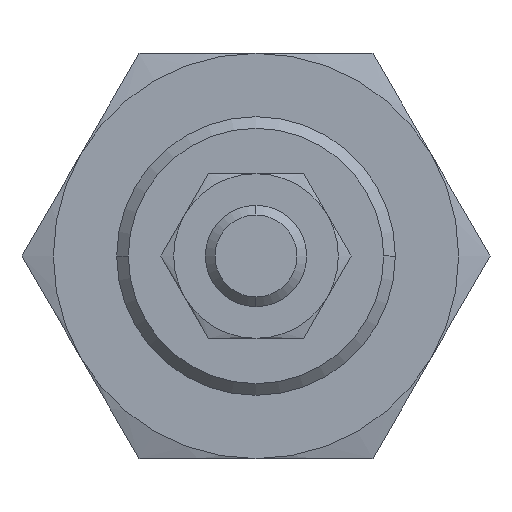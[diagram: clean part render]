
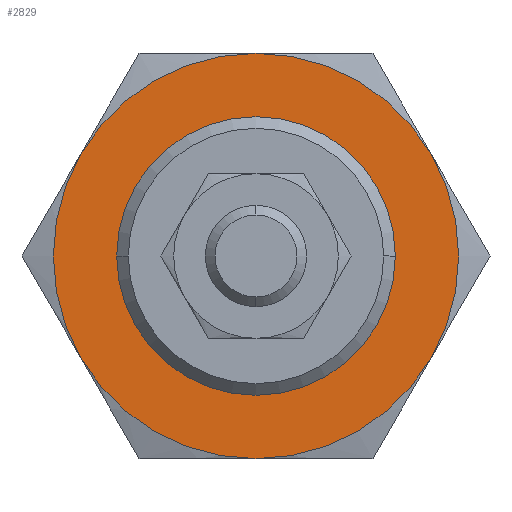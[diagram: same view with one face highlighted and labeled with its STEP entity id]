
A CAD part, left-side view. The second image highlights one B-rep face of the part: STEP entity #2829.
In plain terms, the highlighted planar face has unit normal (-1, 0, 0).
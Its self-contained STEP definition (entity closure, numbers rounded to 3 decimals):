
#31 = VERTEX_POINT ( 'NONE', #3068 ) ;
#46 = ORIENTED_EDGE ( 'NONE', *, *, #247, .F. ) ;
#61 = CARTESIAN_POINT ( 'NONE',  ( -16.5, 16., 0. ) ) ;
#63 = CARTESIAN_POINT ( 'NONE',  ( -16.5, 13.856, -8. ) ) ;
#81 = AXIS2_PLACEMENT_3D ( 'NONE', #2292, #1982, #300 ) ;
#95 = DIRECTION ( 'NONE',  ( 0., 0., -1. ) ) ;
#96 = AXIS2_PLACEMENT_3D ( 'NONE', #369, #3001, #715 ) ;
#172 = VERTEX_POINT ( 'NONE', #2560 ) ;
#177 = DIRECTION ( 'NONE',  ( 1., 0., 0. ) ) ;
#197 = DIRECTION ( 'NONE',  ( 0., 0., -1. ) ) ;
#247 = EDGE_CURVE ( 'NONE', #2157, #31, #3524, .T. ) ;
#284 = VERTEX_POINT ( 'NONE', #1299 ) ;
#300 = DIRECTION ( 'NONE',  ( 0., 0., -1. ) ) ;
#366 = CIRCLE ( 'NONE', #2070, 16. ) ;
#369 = CARTESIAN_POINT ( 'NONE',  ( -16.5, 0., 0. ) ) ;
#376 = EDGE_LOOP ( 'NONE', ( #46, #2836, #1465, #3848, #433, #726 ) ) ;
#394 = FACE_BOUND ( 'NONE', #4221, .T. ) ;
#430 = DIRECTION ( 'NONE',  ( 1., 0., 0. ) ) ;
#433 = ORIENTED_EDGE ( 'NONE', *, *, #503, .F. ) ;
#435 = CARTESIAN_POINT ( 'NONE',  ( -16.5, 0., -16. ) ) ;
#460 = DIRECTION ( 'NONE',  ( 0., 0., -1. ) ) ;
#503 = EDGE_CURVE ( 'NONE', #284, #3287, #366, .T. ) ;
#534 = DIRECTION ( 'NONE',  ( 1., 0., 0. ) ) ;
#539 = CARTESIAN_POINT ( 'NONE',  ( -16.5, -13.856, 8. ) ) ;
#592 = CIRCLE ( 'NONE', #3472, 16. ) ;
#680 = DIRECTION ( 'NONE',  ( 1., 0., 0. ) ) ;
#693 = VERTEX_POINT ( 'NONE', #435 ) ;
#715 = DIRECTION ( 'NONE',  ( 0., 0., -1. ) ) ;
#726 = ORIENTED_EDGE ( 'NONE', *, *, #2874, .F. ) ;
#929 = EDGE_CURVE ( 'NONE', #1273, #693, #1198, .T. ) ;
#1005 = DIRECTION ( 'NONE',  ( 0., 0., -1. ) ) ;
#1198 = CIRCLE ( 'NONE', #3051, 16. ) ;
#1273 = VERTEX_POINT ( 'NONE', #2195 ) ;
#1299 = CARTESIAN_POINT ( 'NONE',  ( -16.5, 0., 16. ) ) ;
#1330 = AXIS2_PLACEMENT_3D ( 'NONE', #61, #1367, #3996 ) ;
#1367 = DIRECTION ( 'NONE',  ( -1., 0., 0. ) ) ;
#1465 = ORIENTED_EDGE ( 'NONE', *, *, #929, .F. ) ;
#1477 = CIRCLE ( 'NONE', #1671, 16. ) ;
#1608 = AXIS2_PLACEMENT_3D ( 'NONE', #3049, #430, #95 ) ;
#1638 = CARTESIAN_POINT ( 'NONE',  ( -16.5, 0., 11. ) ) ;
#1671 = AXIS2_PLACEMENT_3D ( 'NONE', #2494, #177, #460 ) ;
#1692 = EDGE_CURVE ( 'NONE', #3114, #172, #3250, .T. ) ;
#1982 = DIRECTION ( 'NONE',  ( 1., 0., 0. ) ) ;
#2070 = AXIS2_PLACEMENT_3D ( 'NONE', #2819, #4126, #197 ) ;
#2103 = DIRECTION ( 'NONE',  ( 0., 0., -1. ) ) ;
#2157 = VERTEX_POINT ( 'NONE', #63 ) ;
#2195 = CARTESIAN_POINT ( 'NONE',  ( -16.5, -13.856, -8. ) ) ;
#2214 = EDGE_CURVE ( 'NONE', #693, #2157, #592, .T. ) ;
#2292 = CARTESIAN_POINT ( 'NONE',  ( -16.5, 0., 0. ) ) ;
#2494 = CARTESIAN_POINT ( 'NONE',  ( -16.5, 0., 0. ) ) ;
#2538 = DIRECTION ( 'NONE',  ( 1., 0., 0. ) ) ;
#2560 = CARTESIAN_POINT ( 'NONE',  ( -16.5, 0., -11. ) ) ;
#2614 = DIRECTION ( 'NONE',  ( 0., 0., -1. ) ) ;
#2819 = CARTESIAN_POINT ( 'NONE',  ( -16.5, 0., 0. ) ) ;
#2829 = ADVANCED_FACE ( 'NONE', ( #3330, #394 ), #3018, .T. ) ;
#2836 = ORIENTED_EDGE ( 'NONE', *, *, #2214, .F. ) ;
#2874 = EDGE_CURVE ( 'NONE', #31, #284, #1477, .T. ) ;
#2932 = CIRCLE ( 'NONE', #1608, 11. ) ;
#2944 = ORIENTED_EDGE ( 'NONE', *, *, #1692, .T. ) ;
#3001 = DIRECTION ( 'NONE',  ( 1., 0., 0. ) ) ;
#3018 = PLANE ( 'NONE',  #1330 ) ;
#3029 = ORIENTED_EDGE ( 'NONE', *, *, #3225, .T. ) ;
#3049 = CARTESIAN_POINT ( 'NONE',  ( -16.5, 0., 0. ) ) ;
#3051 = AXIS2_PLACEMENT_3D ( 'NONE', #4249, #2538, #2614 ) ;
#3058 = CIRCLE ( 'NONE', #96, 16. ) ;
#3068 = CARTESIAN_POINT ( 'NONE',  ( -16.5, 13.856, 8. ) ) ;
#3114 = VERTEX_POINT ( 'NONE', #1638 ) ;
#3225 = EDGE_CURVE ( 'NONE', #172, #3114, #2932, .T. ) ;
#3250 = CIRCLE ( 'NONE', #4086, 11. ) ;
#3287 = VERTEX_POINT ( 'NONE', #539 ) ;
#3330 = FACE_OUTER_BOUND ( 'NONE', #376, .T. ) ;
#3469 = CARTESIAN_POINT ( 'NONE',  ( -16.5, 0., 0. ) ) ;
#3472 = AXIS2_PLACEMENT_3D ( 'NONE', #3469, #534, #2103 ) ;
#3511 = EDGE_CURVE ( 'NONE', #3287, #1273, #3058, .T. ) ;
#3524 = CIRCLE ( 'NONE', #81, 16. ) ;
#3643 = CARTESIAN_POINT ( 'NONE',  ( -16.5, 0., 0. ) ) ;
#3848 = ORIENTED_EDGE ( 'NONE', *, *, #3511, .F. ) ;
#3996 = DIRECTION ( 'NONE',  ( 0., 0., 1. ) ) ;
#4086 = AXIS2_PLACEMENT_3D ( 'NONE', #3643, #680, #1005 ) ;
#4126 = DIRECTION ( 'NONE',  ( 1., 0., 0. ) ) ;
#4221 = EDGE_LOOP ( 'NONE', ( #2944, #3029 ) ) ;
#4249 = CARTESIAN_POINT ( 'NONE',  ( -16.5, 0., 0. ) ) ;
